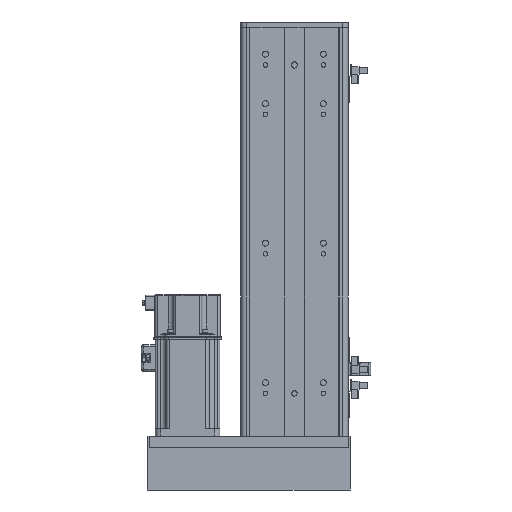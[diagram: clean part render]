
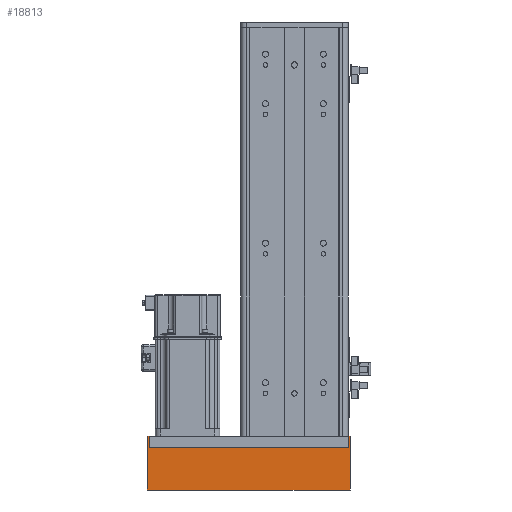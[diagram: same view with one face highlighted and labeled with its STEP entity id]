
A CAD part, front view. The second image highlights one B-rep face of the part: STEP entity #18813.
In plain terms, the highlighted planar face has unit normal (0, -1, 0).
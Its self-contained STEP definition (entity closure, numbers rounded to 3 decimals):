
#561 = LINE ( 'NONE', #19642, #53261 ) ;
#2438 = DIRECTION ( 'NONE',  ( -1., 0., 0. ) ) ;
#3333 = EDGE_LOOP ( 'NONE', ( #53790, #53842, #41521, #19052, #48963, #66174, #9214, #37398 ) ) ;
#3816 = VECTOR ( 'NONE', #21421, 1000. ) ;
#4772 = AXIS2_PLACEMENT_3D ( 'NONE', #54762, #44421, #17766 ) ;
#5045 = EDGE_CURVE ( 'NONE', #24218, #34346, #37583, .T. ) ;
#5918 = CARTESIAN_POINT ( 'NONE',  ( 93., -35.5, 10. ) ) ;
#9214 = ORIENTED_EDGE ( 'NONE', *, *, #46789, .F. ) ;
#9625 = DIRECTION ( 'NONE',  ( -1., 0., 0. ) ) ;
#10535 = VERTEX_POINT ( 'NONE', #46691 ) ;
#11502 = LINE ( 'NONE', #15560, #51366 ) ;
#13646 = LINE ( 'NONE', #32099, #22702 ) ;
#13779 = LINE ( 'NONE', #26564, #52469 ) ;
#14404 = VERTEX_POINT ( 'NONE', #5918 ) ;
#14484 = CARTESIAN_POINT ( 'NONE',  ( -92.8, -35.5, 10. ) ) ;
#15560 = CARTESIAN_POINT ( 'NONE',  ( -92.8, -35.5, 48.4 ) ) ;
#16239 = VECTOR ( 'NONE', #9625, 1000. ) ;
#17766 = DIRECTION ( 'NONE',  ( 0., 0., 1. ) ) ;
#18813 = ADVANCED_FACE ( 'NONE', ( #43659 ), #38908, .F. ) ;
#19052 = ORIENTED_EDGE ( 'NONE', *, *, #21385, .F. ) ;
#19642 = CARTESIAN_POINT ( 'NONE',  ( -94.4, -35.5, 48.4 ) ) ;
#21068 = EDGE_CURVE ( 'NONE', #34346, #57376, #561, .T. ) ;
#21385 = EDGE_CURVE ( 'NONE', #57376, #28785, #13779, .T. ) ;
#21421 = DIRECTION ( 'NONE',  ( 0., 0., 1. ) ) ;
#22358 = CARTESIAN_POINT ( 'NONE',  ( 94.6, -35.5, 50. ) ) ;
#22702 = VECTOR ( 'NONE', #47214, 1000. ) ;
#24218 = VERTEX_POINT ( 'NONE', #51917 ) ;
#26564 = CARTESIAN_POINT ( 'NONE',  ( -92.8, -35.5, 50. ) ) ;
#28785 = VERTEX_POINT ( 'NONE', #22358 ) ;
#29986 = EDGE_CURVE ( 'NONE', #52590, #28785, #56120, .T. ) ;
#31922 = CARTESIAN_POINT ( 'NONE',  ( 94.6, -35.5, 48.4 ) ) ;
#32099 = CARTESIAN_POINT ( 'NONE',  ( -92.8, -35.5, 0. ) ) ;
#32317 = VECTOR ( 'NONE', #64031, 1000. ) ;
#34346 = VERTEX_POINT ( 'NONE', #67957 ) ;
#37398 = ORIENTED_EDGE ( 'NONE', *, *, #37756, .F. ) ;
#37575 = DIRECTION ( 'NONE',  ( 1., 0., 0. ) ) ;
#37583 = LINE ( 'NONE', #66138, #67125 ) ;
#37756 = EDGE_CURVE ( 'NONE', #14404, #61120, #40115, .T. ) ;
#37857 = EDGE_CURVE ( 'NONE', #10535, #14404, #45859, .T. ) ;
#38908 = PLANE ( 'NONE',  #4772 ) ;
#39653 = CARTESIAN_POINT ( 'NONE',  ( -94.4, -35.5, 50. ) ) ;
#40115 = LINE ( 'NONE', #14484, #16239 ) ;
#41521 = ORIENTED_EDGE ( 'NONE', *, *, #29986, .T. ) ;
#41652 = CARTESIAN_POINT ( 'NONE',  ( 93., -35.5, 48.4 ) ) ;
#43659 = FACE_OUTER_BOUND ( 'NONE', #3333, .T. ) ;
#44421 = DIRECTION ( 'NONE',  ( 0., 1., 0. ) ) ;
#45859 = LINE ( 'NONE', #41652, #3816 ) ;
#46691 = CARTESIAN_POINT ( 'NONE',  ( 93., -35.5, 0. ) ) ;
#46789 = EDGE_CURVE ( 'NONE', #61120, #24218, #11502, .T. ) ;
#47214 = DIRECTION ( 'NONE',  ( -1., 0., 0. ) ) ;
#47538 = DIRECTION ( 'NONE',  ( 0., 0., -1. ) ) ;
#48963 = ORIENTED_EDGE ( 'NONE', *, *, #21068, .F. ) ;
#51366 = VECTOR ( 'NONE', #47538, 1000. ) ;
#51917 = CARTESIAN_POINT ( 'NONE',  ( -92.8, -35.5, 0. ) ) ;
#52469 = VECTOR ( 'NONE', #37575, 1000. ) ;
#52590 = VERTEX_POINT ( 'NONE', #58170 ) ;
#53261 = VECTOR ( 'NONE', #55952, 1000. ) ;
#53790 = ORIENTED_EDGE ( 'NONE', *, *, #37857, .F. ) ;
#53842 = ORIENTED_EDGE ( 'NONE', *, *, #55853, .F. ) ;
#54762 = CARTESIAN_POINT ( 'NONE',  ( -92.8, -35.5, 48.4 ) ) ;
#55853 = EDGE_CURVE ( 'NONE', #52590, #10535, #13646, .T. ) ;
#55952 = DIRECTION ( 'NONE',  ( 0., 0., 1. ) ) ;
#56120 = LINE ( 'NONE', #31922, #32317 ) ;
#57376 = VERTEX_POINT ( 'NONE', #39653 ) ;
#58170 = CARTESIAN_POINT ( 'NONE',  ( 94.6, -35.5, 0. ) ) ;
#61120 = VERTEX_POINT ( 'NONE', #65229 ) ;
#64031 = DIRECTION ( 'NONE',  ( 0., 0., 1. ) ) ;
#65229 = CARTESIAN_POINT ( 'NONE',  ( -92.8, -35.5, 10. ) ) ;
#66138 = CARTESIAN_POINT ( 'NONE',  ( -92.8, -35.5, 0. ) ) ;
#66174 = ORIENTED_EDGE ( 'NONE', *, *, #5045, .F. ) ;
#67125 = VECTOR ( 'NONE', #2438, 1000. ) ;
#67957 = CARTESIAN_POINT ( 'NONE',  ( -94.4, -35.5, 0. ) ) ;
